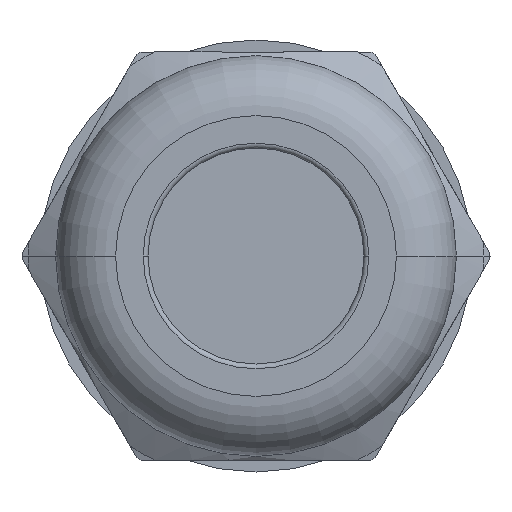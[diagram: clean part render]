
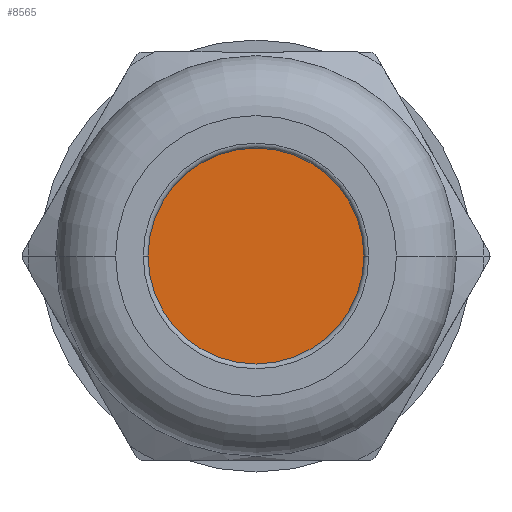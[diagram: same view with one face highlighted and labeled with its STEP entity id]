
A CAD part, front view. The second image highlights one B-rep face of the part: STEP entity #8565.
In plain terms, the highlighted planar face has unit normal (0, -1, 0).
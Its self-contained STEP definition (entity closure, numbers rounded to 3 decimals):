
#2984=CARTESIAN_POINT('',(0.,-24.36,0.));
#2985=DIRECTION('',(0.,-1.,0.));
#2986=DIRECTION('',(1.,0.,0.));
#2987=AXIS2_PLACEMENT_3D('',#2984,#2985,#2986);
#2997=CARTESIAN_POINT('',(0.,-24.36,0.));
#2998=DIRECTION('',(0.,-1.,0.));
#2999=DIRECTION('',(-1.,0.,0.));
#3000=AXIS2_PLACEMENT_3D('',#2997,#2998,#2999);
#4698=CARTESIAN_POINT('',(-6.89,-24.36,0.));
#4699=CARTESIAN_POINT('',(6.89,-24.36,0.));
#4700=VERTEX_POINT('',#4698);
#4701=VERTEX_POINT('',#4699);
#8555=CARTESIAN_POINT('',(0.,-24.36,0.));
#8556=DIRECTION('',(0.,1.,0.));
#8557=DIRECTION('',(1.,0.,0.));
#8558=AXIS2_PLACEMENT_3D('',#8555,#8556,#8557);
#8559=PLANE('',#8558);
#8561=ORIENTED_EDGE('',*,*,#8560,.F.);
#8562=ORIENTED_EDGE('',*,*,#8545,.F.);
#8563=EDGE_LOOP('',(#8561,#8562));
#8564=FACE_OUTER_BOUND('',#8563,.F.);
#2988=CIRCLE('',#2987,6.89);
#3001=CIRCLE('',#3000,6.89);
#8545=EDGE_CURVE('',#4701,#4700,#2988,.T.);
#8560=EDGE_CURVE('',#4700,#4701,#3001,.T.);
#8565=ADVANCED_FACE('',(#8564),#8559,.F.);
